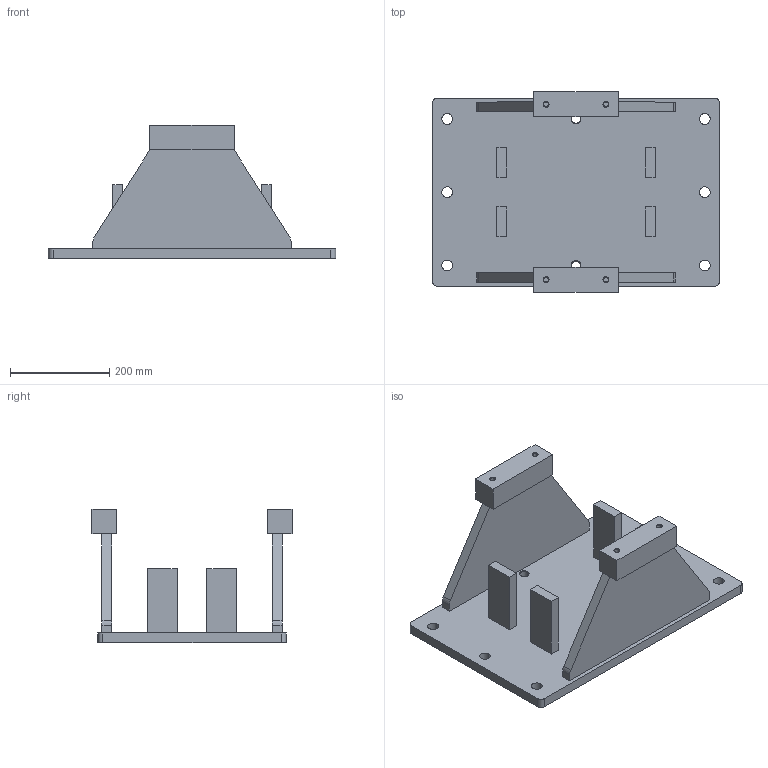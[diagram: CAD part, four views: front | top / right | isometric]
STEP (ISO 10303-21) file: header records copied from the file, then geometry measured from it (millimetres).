
FILE_DESCRIPTION (( 'STEP AP203' ), '1' );
FILE_NAME ('E-CW3T-01嘐隅釱郪璃.STEP', '2025-10-29T13:11:10', ( '' ), ( '' ), 'SwSTEP 2.0', 'SolidWorks 2018', '' );
FILE_SCHEMA (( 'CONFIG_CONTROL_DESIGN' ));
Length unit declared in the file: millimetre
Products named in the file (5): E-CW3T-01-01-Q355B源倛啣-儂樓; FXB-T20×130×60-Q355B方形板; E-CW3T-01嘐隅釱郪璃; E-CW3T-01-03-Q355B坶啣; E-CW3T-01-02-Q355B耜啣
Assembly tree (9 placements, depth 2):
  E-CW3T-01嘐隅釱郪璃
    E-CW3T-01-01-Q355B源倛啣-儂樓
    E-CW3T-01-02-Q355B耜啣  x2
    E-CW3T-01-03-Q355B坶啣  x2
    FXB-T20×130×60-Q355B方形板  x4
Bounding box: 580 x 404 x 270 mm (x, y, z)
Volume: 8180298.5 mm3; surface area: 938703.8 mm2
Topology: 9 solids, 9 shells, 102 faces, 240 edges, 156 vertices
Faces by surface type: plane 58, cylinder 32, cone 12
Entity records: 2511 total; most frequent: DIRECTION 352, CARTESIAN_POINT 316, ORIENTED_EDGE 296, EDGE_CURVE 148, AXIS2_PLACEMENT_3D 132, VERTEX_POINT 96, LINE 88, VECTOR 88
